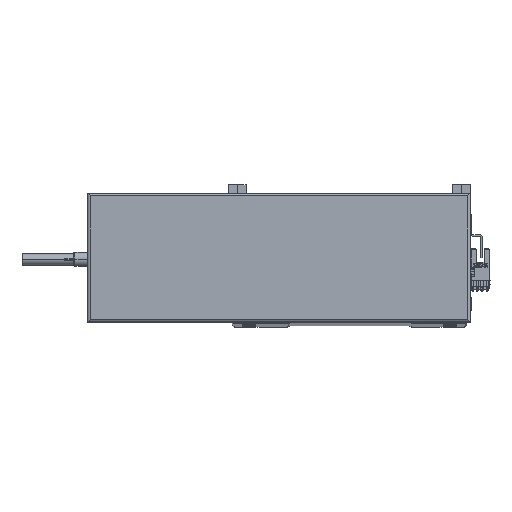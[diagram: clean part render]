
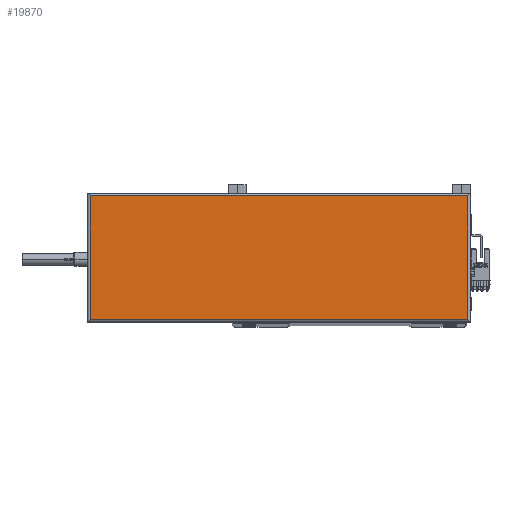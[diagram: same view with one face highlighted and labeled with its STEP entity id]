
A CAD part, top view. The second image highlights one B-rep face of the part: STEP entity #19870.
In plain terms, the highlighted planar face has unit normal (0, 0, 1).
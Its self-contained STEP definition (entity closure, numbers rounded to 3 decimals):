
#763 = EDGE_LOOP ( 'NONE', ( #42337, #10741, #2895, #27754 ) ) ;
#2630 = CARTESIAN_POINT ( 'NONE',  ( 2., 0., 44.8 ) ) ;
#2895 = ORIENTED_EDGE ( 'NONE', *, *, #35918, .T. ) ;
#3565 = LINE ( 'NONE', #2630, #13209 ) ;
#5653 = VECTOR ( 'NONE', #12411, 1000. ) ;
#6181 = VECTOR ( 'NONE', #8400, 1000. ) ;
#8400 = DIRECTION ( 'NONE',  ( 1., 0., 0. ) ) ;
#10741 = ORIENTED_EDGE ( 'NONE', *, *, #34151, .T. ) ;
#12411 = DIRECTION ( 'NONE',  ( -1., 0., 0. ) ) ;
#13154 = DIRECTION ( 'NONE',  ( 1., 0., 0. ) ) ;
#13209 = VECTOR ( 'NONE', #41058, 1000. ) ;
#14292 = CARTESIAN_POINT ( 'NONE',  ( 2., 2., 44.8 ) ) ;
#17860 = VERTEX_POINT ( 'NONE', #18369 ) ;
#18369 = CARTESIAN_POINT ( 'NONE',  ( 265., 88., 44.8 ) ) ;
#18955 = LINE ( 'NONE', #33018, #6181 ) ;
#19870 = ADVANCED_FACE ( 'NONE', ( #33162 ), #26086, .T. ) ;
#20146 = CARTESIAN_POINT ( 'NONE',  ( 0., 88., 44.8 ) ) ;
#21945 = CARTESIAN_POINT ( 'NONE',  ( 133.5, 45., 44.8 ) ) ;
#23604 = LINE ( 'NONE', #20146, #5653 ) ;
#23623 = CARTESIAN_POINT ( 'NONE',  ( 265., 90., 44.8 ) ) ;
#25775 = AXIS2_PLACEMENT_3D ( 'NONE', #21945, #50673, #13154 ) ;
#26086 = PLANE ( 'NONE',  #25775 ) ;
#27754 = ORIENTED_EDGE ( 'NONE', *, *, #35577, .T. ) ;
#27957 = CARTESIAN_POINT ( 'NONE',  ( 265., 2., 44.8 ) ) ;
#28978 = VERTEX_POINT ( 'NONE', #45691 ) ;
#31994 = VERTEX_POINT ( 'NONE', #14292 ) ;
#33018 = CARTESIAN_POINT ( 'NONE',  ( 267., 2., 44.8 ) ) ;
#33162 = FACE_OUTER_BOUND ( 'NONE', #763, .T. ) ;
#34001 = VECTOR ( 'NONE', #44263, 1000. ) ;
#34151 = EDGE_CURVE ( 'NONE', #17860, #28978, #23604, .T. ) ;
#35577 = EDGE_CURVE ( 'NONE', #31994, #50985, #18955, .T. ) ;
#35918 = EDGE_CURVE ( 'NONE', #28978, #31994, #3565, .T. ) ;
#41058 = DIRECTION ( 'NONE',  ( 0., -1., 0. ) ) ;
#42337 = ORIENTED_EDGE ( 'NONE', *, *, #45390, .T. ) ;
#44263 = DIRECTION ( 'NONE',  ( 0., 1., 0. ) ) ;
#45390 = EDGE_CURVE ( 'NONE', #50985, #17860, #47501, .T. ) ;
#45691 = CARTESIAN_POINT ( 'NONE',  ( 2., 88., 44.8 ) ) ;
#47501 = LINE ( 'NONE', #23623, #34001 ) ;
#50673 = DIRECTION ( 'NONE',  ( 0., 0., 1. ) ) ;
#50985 = VERTEX_POINT ( 'NONE', #27957 ) ;
